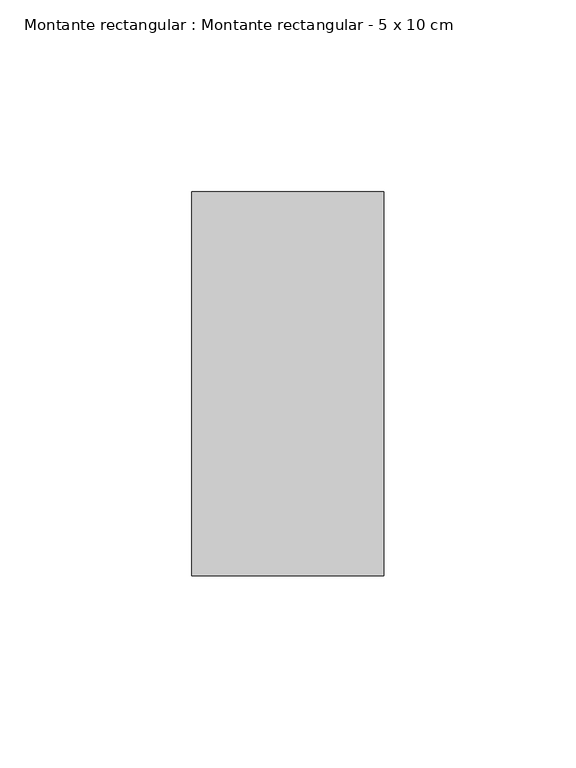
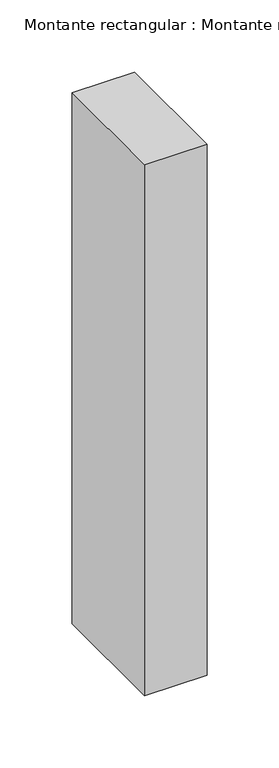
"""IFC4 building model written with IfcOpenShell, lengths in millimetres: member geometry, Montante rectangular : Montante rectangular - 5 x 10 cm."""

from ifc_helpers import new_model, si_unit, frame, origin, place, context, project, spatial, polyline, outline, extrude, source, transform, mapped, element, save


def montante_rectangular_montante_rectangular_5_x_10_cm_d727850f(model_context):
    return source(origin(), model_context, "Body", "SweptSolid", [
        extrude(outline(polyline([(25.0, -50.0), (-25.0, -50.0), (-25.0, 50.0), (25.0, 50.0), (25.0, -50.0)])), frame((0.0, 0.0, -448.5802469), z_axis=(0.0, 0.0, 1.0), x_axis=(1.0, 0.0, 0.0)), (0.0, 0.0, 1.0), 448.5802469),
    ])


if __name__ == "__main__":
    model = new_model("IFC4")
    model_context = context("Model", 3, world=origin())
    ifc_project = project(units=[si_unit("LENGTHUNIT", "METRE", prefix="MILLI")], contexts=[model_context])
    site = spatial("IfcSite", under=ifc_project)
    building = spatial("IfcBuilding", under=site)
    placement = place(None, origin())
    montante_rectangular_montante_rectangular_5_x_10_cm_shape = montante_rectangular_montante_rectangular_5_x_10_cm_d727850f(model_context)
    element("IfcMember", 1, ObjectType="Montante rectangular : Montante rectangular - 5 x 10 cm", at=placement, inside=building, context=model_context, shape_type="MappedRepresentation", body=[
        mapped(montante_rectangular_montante_rectangular_5_x_10_cm_shape, transform((0.0, 0.0, 0.0), x_axis=(1.0, 0.0, 0.0), y_axis=(0.0, 1.0, 0.0), z_axis=(0.0, 0.0, 1.0))),
    ])
    save(model, "model.ifc")
